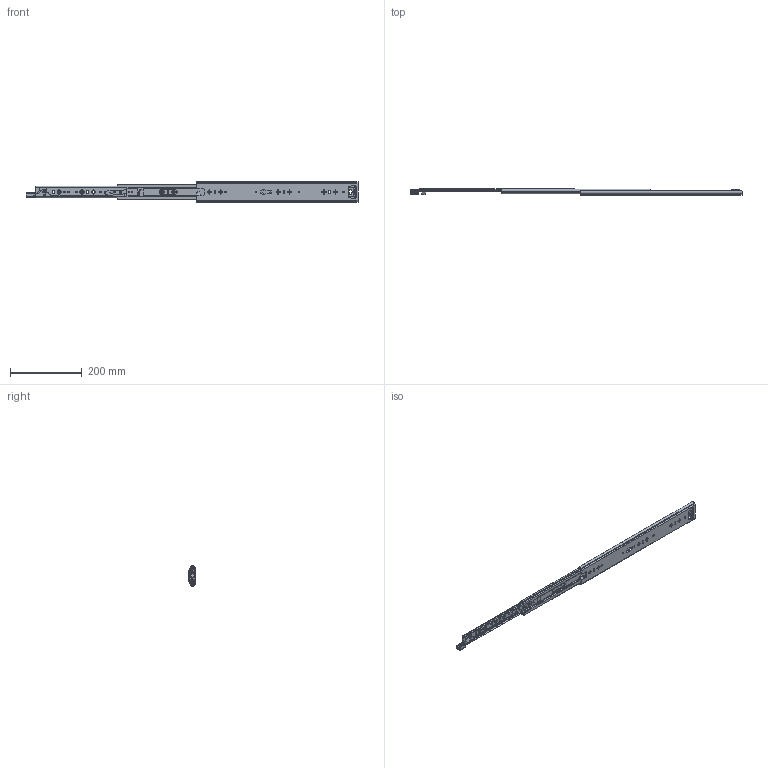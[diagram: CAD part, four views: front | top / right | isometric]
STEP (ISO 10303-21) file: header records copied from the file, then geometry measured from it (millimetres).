
FILE_DESCRIPTION((''),'2;1');
FILE_NAME('KP-57-01ZUZHUANGTU-18_ASM','2022-08-18T',('jishu015'),(''),'PRO/ENGINEER BY PARAMETRIC TECHNOLOGY CORPORATION, 2010280','PRO/ENGINEER BY PARAMETRIC TECHNOLOGY CORPORATION, 2010280','');
FILE_SCHEMA(('CONFIG_CONTROL_DESIGN'));
Length unit declared in the file: millimetre
Products named in the file (22): KP-57-01WEIKE-20_; 1057WEIJIAO_________________; WAIKE________________ASM; KP-57-01ZHONGGUI-26____; ZHONGGUIPEIJIAN-20_; ZHONGGUISUOKOU-18; KP-57-01ZHONGGUI-26_____ASM; 1057XIAOZHUJIA_________________; 1057-5-6GANZHU_________________; 1057XIAOZHUJIA-14GE26_____ASM; KP-57-01NEIGUI-22__; PJ-57-08_______________; DIAOPIAN-11_______________; 50XINSUOKOU-1_______________; TANHUANG_______________; 1053-3SBANJI122_____________; JIAO11_____________; KP-57-01NEIGUI-22___ASM; 1053ZHUTIAO-275____; 53-5-6GANZHU1_; 1053ZHUTIAO-175MM111_ASM; KP-57-01ZUZHUANGTU-18_ASM
Assembly tree (55 placements, depth 3):
  KP-57-01ZUZHUANGTU-18_ASM
    WAIKE________________ASM
      KP-57-01WEIKE-20_
      1057WEIJIAO_________________
    KP-57-01ZHONGGUI-26_____ASM
      KP-57-01ZHONGGUI-26____
      ZHONGGUIPEIJIAN-20_
      ZHONGGUISUOKOU-18
    1057XIAOZHUJIA-14GE26_____ASM
      1057XIAOZHUJIA_________________
      1057-5-6GANZHU_________________  x28
    KP-57-01NEIGUI-22___ASM
      KP-57-01NEIGUI-22__
      PJ-57-08_______________
      DIAOPIAN-11_______________
      50XINSUOKOU-1_______________
      TANHUANG_______________
      1053-3SBANJI122_____________
      JIAO11_____________
    1053ZHUTIAO-175MM111_ASM  x2
      1053ZHUTIAO-275____
      53-5-6GANZHU1_
Bounding box: 926.92 x 19.01 x 57.67 mm (x, y, z)
Volume: 195516.4 mm3; surface area: 211806.4 mm2
Topology: 59 solids, 59 shells, 1790 faces, 5096 edges, 3205 vertices
Faces by surface type: plane 762, cylinder 739, sphere 95, bspline 86, cone 60, torus 25, extrusion 23
Entity records: 59556 total; most frequent: CARTESIAN_POINT 15237, ORIENTED_EDGE 9376, DIRECTION 9082, EDGE_CURVE 4688, AXIS2_PLACEMENT_3D 3136, VERTEX_POINT 3025, VECTOR 2810, LINE 2787
